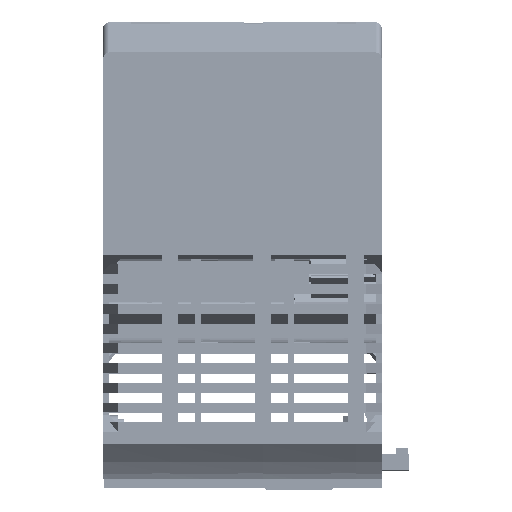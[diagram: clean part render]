
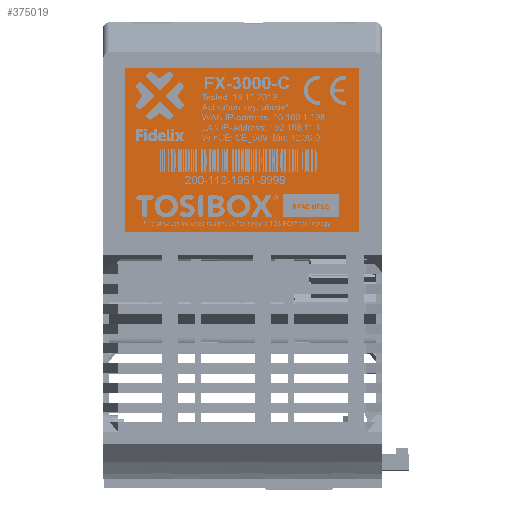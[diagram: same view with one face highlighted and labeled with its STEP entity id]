
A CAD part, top view. The second image highlights one B-rep face of the part: STEP entity #375019.
In plain terms, the highlighted planar face has unit normal (0, 0, 1).
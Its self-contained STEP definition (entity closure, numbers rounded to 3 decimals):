
#25619=FACE_OUTER_BOUND('',#45641,.T.);
#45641=EDGE_LOOP('',(#291766,#291767,#291768,#291769));
#95257=LINE('',#662601,#128420);
#95260=LINE('',#662607,#128423);
#95263=LINE('',#662613,#128426);
#95266=LINE('',#662617,#128429);
#128420=VECTOR('',#480248,1000.);
#128423=VECTOR('',#480253,1000.);
#128426=VECTOR('',#480258,1000.);
#128429=VECTOR('',#480263,1000.);
#159355=VERTEX_POINT('',#662598);
#159356=VERTEX_POINT('',#662600);
#159358=VERTEX_POINT('',#662606);
#159360=VERTEX_POINT('',#662612);
#205817=EDGE_CURVE('',#159356,#159355,#95257,.T.);
#205820=EDGE_CURVE('',#159358,#159356,#95260,.T.);
#205823=EDGE_CURVE('',#159360,#159358,#95263,.T.);
#205826=EDGE_CURVE('',#159355,#159360,#95266,.T.);
#291766=ORIENTED_EDGE('',*,*,#205826,.T.);
#291767=ORIENTED_EDGE('',*,*,#205823,.T.);
#291768=ORIENTED_EDGE('',*,*,#205820,.T.);
#291769=ORIENTED_EDGE('',*,*,#205817,.T.);
#341377=PLANE('',#401463);
#375019=ADVANCED_FACE('',(#25619),#341377,.T.);
#401463=AXIS2_PLACEMENT_3D('',#662618,#480264,#480265);
#480248=DIRECTION('',(-1.,0.,0.));
#480253=DIRECTION('',(0.,1.,0.));
#480258=DIRECTION('',(1.,0.,0.));
#480263=DIRECTION('',(0.,-1.,0.));
#480264=DIRECTION('center_axis',(0.,0.,1.));
#480265=DIRECTION('ref_axis',(1.,0.,0.));
#662598=CARTESIAN_POINT('',(-28.625,96.,98.75));
#662600=CARTESIAN_POINT('',(28.375,96.,98.75));
#662601=CARTESIAN_POINT('',(28.375,96.,98.75));
#662606=CARTESIAN_POINT('',(28.375,56.,98.75));
#662607=CARTESIAN_POINT('',(28.375,56.,98.75));
#662612=CARTESIAN_POINT('',(-28.625,56.,98.75));
#662613=CARTESIAN_POINT('',(-28.625,56.,98.75));
#662617=CARTESIAN_POINT('',(-28.625,96.,98.75));
#662618=CARTESIAN_POINT('Origin',(-0.125,76.,98.75));
